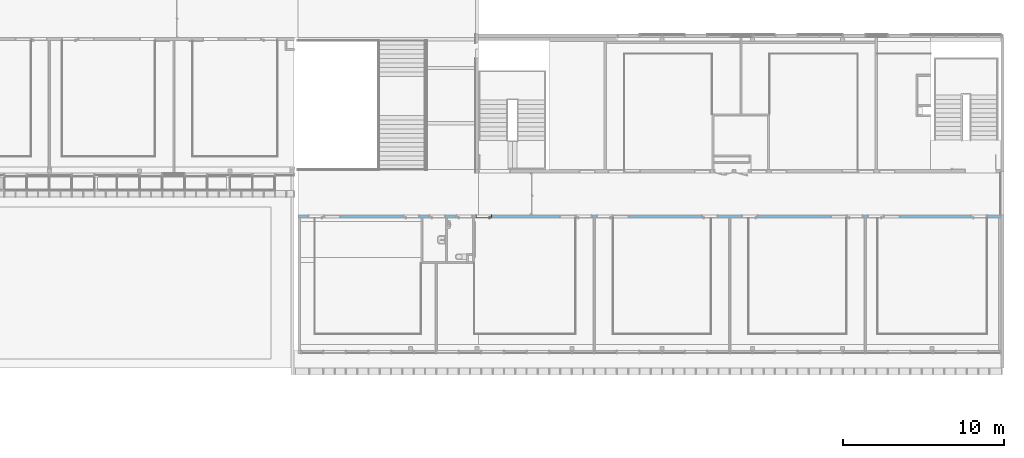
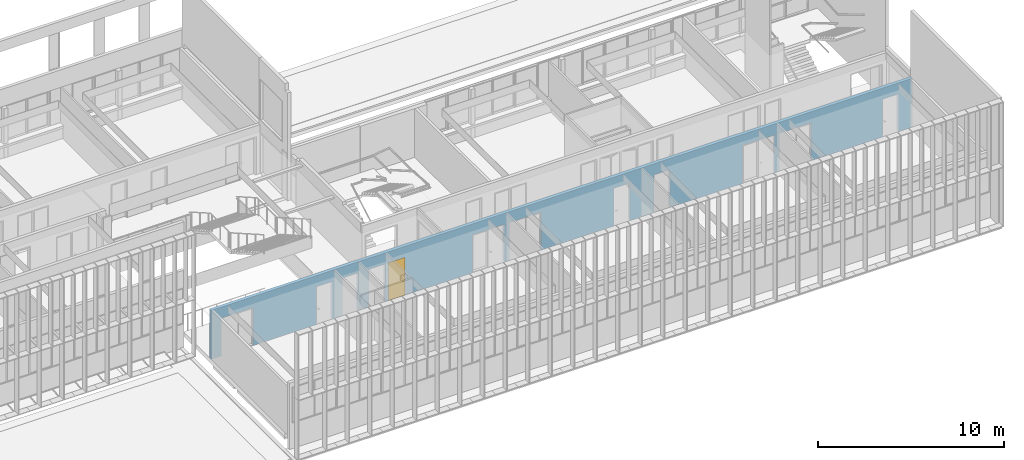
# One storey, part 73 of 106: 1 door, 18 openings, plus 1 element that does not belong to this part.
"""IFC2X3 building model written with IfcOpenShell, lengths in centimetres."""

import ifcopenshell
import ifcopenshell.guid

model = None  # the IFC model being written
_history = None  # IfcOwnerHistory: only IFC2X3 demands one
_inside = {}  # id of a spatial element -> (the spatial element, [elements in it])
_under = {}  # id of a project, library or spatial element -> (it, [spatial elements below it])
_declared = {}  # id of a project -> (the project, [libraries it declares])
_typed = {}  # id of a type object -> (the type object, [elements of that type])
_made_of = {}  # id of a material, layer set ... -> (it, [elements and type objects made of it])


def new_model(schema):
    """Start an empty IFC model of exactly this schema.

    Asked for "IFC4X3", IfcOpenShell would pick the latest addendum, in which some entities
    have other attributes; the version numbers below select the first issue.
    IFC2X3 requires an IfcOwnerHistory on every rooted entity: one is made here for all.
    """
    global model, _history
    if schema == "IFC4X3":
        model = ifcopenshell.file(schema_version=(4, 3, 0, 0))
    else:
        model = ifcopenshell.file(schema=schema)
    _inside.clear()
    _under.clear()
    _declared.clear()
    _typed.clear()
    _made_of.clear()
    _history = None
    if model.schema == "IFC2X3":
        org = make("IfcOrganization", Name="unknown")
        user = make(
            "IfcPersonAndOrganization",
            ThePerson=make("IfcPerson", FamilyName="unknown"),
            TheOrganization=org,
        )
        app = make(
            "IfcApplication",
            ApplicationDeveloper=org,
            Version="unknown",
            ApplicationFullName="unknown",
            ApplicationIdentifier="unknown",
        )
        _history = make(
            "IfcOwnerHistory",
            OwningUser=user,
            OwningApplication=app,
            ChangeAction="ADDED",
            CreationDate=0,
        )
    return model


def make(cls, **values):
    """One entity of the class cls with the attributes given. An attribute that is None is left unset."""
    return model.create_entity(
        cls, **{name: value for name, value in values.items() if value is not None}
    )


def entity(cls, *values):
    """Any entity or typed value of the class cls, its attributes in the order of the schema. None: left unset."""
    e = model.create_entity(cls)
    for i, value in enumerate(values):
        if value is not None:
            e[i] = value
    return e


def rooted(cls, **values):
    """An entity with a GlobalId (a new one), such as an element, a storey or a relation."""
    return make(cls, GlobalId=ifcopenshell.guid.new(), OwnerHistory=_history, **values)


def si_unit(unit_type, name, prefix=None):
    """IfcSIUnit, for example si_unit("LENGTHUNIT", "METRE", prefix="MILLI")."""
    return make("IfcSIUnit", UnitType=unit_type, Prefix=prefix, Name=name)


def converted_unit(unit_type, name, factor, base, dimensions=None, offset=None):
    """IfcConversionBasedUnit, such as the inch: factor (a typed value) times the base unit."""
    return make(
        "IfcConversionBasedUnit"
        if offset is None
        else "IfcConversionBasedUnitWithOffset",
        ConversionOffset=offset,
        Dimensions=None
        if dimensions is None
        else entity("IfcDimensionalExponents", *dimensions),
        UnitType=unit_type,
        Name=name,
        ConversionFactor=make(
            "IfcMeasureWithUnit", ValueComponent=factor, UnitComponent=base
        ),
    )


def derived_unit(unit_type, elements):
    """IfcDerivedUnit: a product of units, each with its exponent."""
    return make(
        "IfcDerivedUnit",
        Elements=[
            make("IfcDerivedUnitElement", Unit=unit, Exponent=power)
            for unit, power in elements
        ],
        UnitType=unit_type,
    )


def assignment(units):
    """IfcUnitAssignment: the units of a project."""
    return None if units is None else make("IfcUnitAssignment", Units=units)


def point(xyz):
    """IfcCartesianPoint."""
    return None if xyz is None else make("IfcCartesianPoint", Coordinates=xyz)


def direction(xyz):
    """IfcDirection."""
    return None if xyz is None else make("IfcDirection", DirectionRatios=xyz)


def frame(location, z_axis=None, x_axis=None):
    """IfcAxis2Placement3D, a coordinate frame: its origin and axes. An axis left out is left unset."""
    return make(
        "IfcAxis2Placement3D",
        Location=point(location),
        Axis=direction(z_axis),
        RefDirection=direction(x_axis),
    )


def frame_2d(location, x_axis=None):
    """IfcAxis2Placement2D, a coordinate frame in the plane: its origin and x axis."""
    return make(
        "IfcAxis2Placement2D", Location=point(location), RefDirection=direction(x_axis)
    )


def origin():
    """The frame at (0, 0, 0) with its axes left unset."""
    return frame((0.0, 0.0, 0.0))


def place(relative_to, where):
    """IfcLocalPlacement: puts the frame where relative to a parent placement (None: the world)."""
    return make(
        "IfcLocalPlacement", PlacementRelTo=relative_to, RelativePlacement=where
    )


def context(
    kind, dimensions, precision=None, world=None, true_north=None, identifier=None
):
    """IfcGeometricRepresentationContext, for example the 3D "Model" context."""
    return make(
        "IfcGeometricRepresentationContext",
        ContextIdentifier=identifier,
        ContextType=kind,
        CoordinateSpaceDimension=dimensions,
        Precision=precision,
        WorldCoordinateSystem=world,
        TrueNorth=true_north,
    )


def subcontext(parent, identifier, kind, view, scale=None):
    """IfcGeometricRepresentationSubContext, for example "Body" below "Model"."""
    return make(
        "IfcGeometricRepresentationSubContext",
        ContextIdentifier=identifier,
        ContextType=kind,
        ParentContext=parent,
        TargetScale=scale,
        TargetView=view,
    )


def project(units=None, contexts=None):
    """IfcProject with its units and contexts."""
    return rooted(
        "IfcProject",
        Name="project",
        RepresentationContexts=contexts,
        UnitsInContext=assignment(units),
    )


def spatial(cls, under=None, at=None, **own):
    """A site, building, storey or space (cls), placed at a placement, below another one or the project."""
    s = rooted(cls, ObjectPlacement=at, **own)
    if under is not None:
        _under.setdefault(under.id(), (under, []))[1].append(s)
    return s


def polyline(points):
    """IfcPolyline through the points."""
    return make("IfcPolyline", Points=[point(p) for p in points])


def profile(cls, at=None, kind="AREA", **sizes):
    """A parametric profile (cls). Its sizes go by their IFC names, for example OverallWidth=200.0."""
    return make(cls, ProfileType=kind, Position=at, **sizes)


def rectangle(**sizes):
    """IfcRectangleProfileDef."""
    return profile("IfcRectangleProfileDef", **sizes)


def extrude(swept, where, along, depth):
    """IfcExtrudedAreaSolid: the profile swept, set in the frame where, extruded along a direction by depth."""
    return make(
        "IfcExtrudedAreaSolid",
        SweptArea=swept,
        Position=where,
        ExtrudedDirection=direction(along),
        Depth=depth,
    )


def clip(a, b, op="DIFFERENCE"):
    """IfcBooleanClippingResult: the solid a cut by the half space b."""
    return make(
        "IfcBooleanClippingResult", Operator=op, FirstOperand=a, SecondOperand=b
    )


def bounded_halfspace(plane, agree, where, boundary):
    """IfcPolygonalBoundedHalfSpace: a half space limited to a polygon's prism."""
    return make(
        "IfcPolygonalBoundedHalfSpace",
        BaseSurface=make("IfcPlane", Position=plane),
        AgreementFlag=agree,
        Position=where,
        PolygonalBoundary=boundary,
    )


def faces_of(points, faces, orient=None, outer=None):
    """IfcFace entities. A face is a list of loops; a loop is a list of indices into points, from 0.

    orient and outer hold one flag for each loop. By default every Orientation is true, the
    first loop of a face is its IfcFaceOuterBound and the others are IfcFaceBound.
    """
    made = []
    for i, loops in enumerate(faces):
        bounds = []
        for j, loop in enumerate(loops):
            is_outer = j == 0 if outer is None else outer[i][j]
            bounds.append(
                make(
                    "IfcFaceOuterBound" if is_outer else "IfcFaceBound",
                    Bound=make("IfcPolyLoop", Polygon=[points[k] for k in loop]),
                    Orientation=True if orient is None else orient[i][j],
                )
            )
        made.append(make("IfcFace", Bounds=bounds))
    return made


def faceted_brep(points, faces, orient=None, outer=None, voids=None):
    """IfcFacetedBrep: a solid bounded by flat faces; with voids (closed shells), ...WithVoids."""
    shared = [point(p) for p in points]
    hull = make("IfcClosedShell", CfsFaces=faces_of(shared, faces, orient, outer))
    if voids is None:
        return make("IfcFacetedBrep", Outer=hull)
    return make(
        "IfcFacetedBrepWithVoids",
        Outer=hull,
        Voids=[
            make(cls, CfsFaces=faces_of(shared, fs, o, b)) for cls, fs, o, b in voids
        ],
    )


def shape(context_of_items, identifier, shape_type, items):
    """IfcShapeRepresentation: the items that make up one representation, for example the "Body"."""
    return make(
        "IfcShapeRepresentation",
        ContextOfItems=context_of_items,
        RepresentationIdentifier=identifier,
        RepresentationType=shape_type,
        Items=items,
    )


def source(mapping_origin, context_of_items, identifier, shape_type, items):
    """IfcRepresentationMap: a shape defined once, which mapped items show again and again."""
    return make(
        "IfcRepresentationMap",
        MappingOrigin=mapping_origin,
        MappedRepresentation=shape(context_of_items, identifier, shape_type, items),
    )


def transform(
    local_origin,
    x_axis=None,
    y_axis=None,
    z_axis=None,
    scale=None,
    scale2=None,
    scale3=None,
    uniform=True,
):
    """IfcCartesianTransformationOperator3D, or its non-uniform kind. x_axis, y_axis, z_axis: its Axis1, 2, 3."""
    if uniform:
        return make(
            "IfcCartesianTransformationOperator3D",
            Axis1=direction(x_axis),
            Axis2=direction(y_axis),
            LocalOrigin=point(local_origin),
            Scale=scale,
            Axis3=direction(z_axis),
        )
    return make(
        "IfcCartesianTransformationOperator3DnonUniform",
        Axis1=direction(x_axis),
        Axis2=direction(y_axis),
        LocalOrigin=point(local_origin),
        Scale=scale,
        Axis3=direction(z_axis),
        Scale2=scale2,
        Scale3=scale3,
    )


def mapped(mapping_source, mapping_target):
    """IfcMappedItem: shows the shape of a source again, moved by a transform."""
    return make(
        "IfcMappedItem", MappingSource=mapping_source, MappingTarget=mapping_target
    )


def material(Name=None, Category=None):
    """IfcMaterial."""
    return make("IfcMaterial", Name=Name, Category=Category)


def material_list(materials):
    """IfcMaterialList."""
    return make("IfcMaterialList", Materials=materials)


def layer(
    of_material, thickness, ventilated=None, Name=None, Category=None, Priority=None
):
    """IfcMaterialLayer: one layer of a wall or slab, of a material (None: an air gap)."""
    return make(
        "IfcMaterialLayer",
        Material=of_material,
        LayerThickness=thickness,
        IsVentilated=ventilated,
        Name=Name,
        Category=Category,
        Priority=Priority,
    )


def layer_set(layers, Name=None):
    """IfcMaterialLayerSet."""
    return make("IfcMaterialLayerSet", MaterialLayers=layers, LayerSetName=Name)


def layer_usage(for_layer_set, set_direction, sense, offset, extent=None):
    """IfcMaterialLayerSetUsage: how a layer set lies in its element."""
    return make(
        "IfcMaterialLayerSetUsage",
        ForLayerSet=for_layer_set,
        LayerSetDirection=set_direction,
        DirectionSense=sense,
        OffsetFromReferenceLine=offset,
        ReferenceExtent=extent,
    )


def made_of(thing, what):
    """Note that an element or type object is made of a material, layer set ...; save() writes the relation."""
    if what is not None:
        _made_of.setdefault(what.id(), (what, []))[1].append(thing)
    return thing


def type_object(cls, material=None, **own):
    """A type object (cls), such as IfcWallType, which elements share."""
    return made_of(rooted(cls, **own), material)


def type_shapes(of_type, sources):
    """Give a type object the sources (RepresentationMaps) that its elements show as mapped items."""
    of_type.RepresentationMaps = sources


def element(
    cls,
    number,
    at=None,
    inside=None,
    cuts=None,
    type_object=None,
    material=None,
    context=None,
    identifier="Body",
    shape_type=None,
    held_by="IfcProductDefinitionShape",
    body=None,
    shapes=None,
    **own,
):
    """One element of the class cls, such as IfcWall. Its Tag is "e" and its number.

    at: its placement. inside: the storey or other place that contains it. cuts: it is an
    opening in that element (IfcRelVoidsElement). A single representation is given by context,
    identifier, shape_type and body (its items); several are given by shapes. held_by: the class
    of the entity that holds the representations. save() writes the other relations.
    """
    e = rooted(cls, Tag="e%d" % number, ObjectPlacement=at, **own)
    if body is not None:
        shapes = [shape(context, identifier, shape_type, body)]
    if shapes is not None:
        e.Representation = make(held_by, Representations=shapes)
    if inside is not None:
        _inside.setdefault(inside.id(), (inside, []))[1].append(e)
    if cuts is not None:
        rooted(
            "IfcRelVoidsElement", RelatingBuildingElement=cuts, RelatedOpeningElement=e
        )
    if type_object is not None:
        _typed.setdefault(type_object.id(), (type_object, []))[1].append(e)
    return made_of(e, material)


def fill(opening, filler):
    """IfcRelFillsElement: the door or window that sits in an opening."""
    return rooted(
        "IfcRelFillsElement",
        RelatingOpeningElement=opening,
        RelatedBuildingElement=filler,
    )


def aggregate(whole, parts):
    """IfcRelAggregates: a whole, such as a stair, and the parts it consists of."""
    return rooted("IfcRelAggregates", RelatingObject=whole, RelatedObjects=parts)


def save(model, path):
    """Write the relations noted so far, then the file.

    IfcRelAggregates (storeys below a building ...), IfcRelContainedInSpatialStructure (elements
    in a storey), IfcRelDefinesByType, IfcRelAssociatesMaterial and IfcRelDeclares: one each for
    every whole, place, type object, material and project.
    """
    for whole, parts in _under.values():
        aggregate(whole, parts)
    for where, things in _inside.values():
        rooted(
            "IfcRelContainedInSpatialStructure",
            RelatedElements=things,
            RelatingStructure=where,
        )
    for kind, things in _typed.values():
        rooted("IfcRelDefinesByType", RelatedObjects=things, RelatingType=kind)
    for what, things in _made_of.values():
        rooted("IfcRelAssociatesMaterial", RelatedObjects=things, RelatingMaterial=what)
    for by, libraries in _declared.values():
        rooted("IfcRelDeclares", RelatingContext=by, RelatedDefinitions=libraries)
    model.write(path)


model = new_model("IFC2X3")

# Units and contexts
model_context = context("Model", 3, precision=0.001, world=origin(), true_north=direction((6.12303176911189e-17, 1.0)))
body_context = subcontext(model_context, "Body", "Model", "MODEL_VIEW")
ifc_project = project(units=[si_unit("LENGTHUNIT", "METRE", prefix="CENTI"), si_unit("AREAUNIT", "SQUARE_METRE"), si_unit("VOLUMEUNIT", "CUBIC_METRE"), converted_unit("PLANEANGLEUNIT", "DEGREE", entity("IfcRatioMeasure", 0.0174532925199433), si_unit("PLANEANGLEUNIT", "RADIAN"), dimensions=[0, 0, 0, 0, 0, 0, 0]), si_unit("MASSUNIT", "GRAM", prefix="KILO"), derived_unit("MASSDENSITYUNIT", [(si_unit("MASSUNIT", "GRAM", prefix="KILO"), 1), (si_unit("LENGTHUNIT", "METRE"), -3)]), si_unit("TIMEUNIT", "SECOND"), si_unit("FREQUENCYUNIT", "HERTZ"), si_unit("THERMODYNAMICTEMPERATUREUNIT", "DEGREE_CELSIUS"), derived_unit("THERMALTRANSMITTANCEUNIT", [(si_unit("MASSUNIT", "GRAM", prefix="KILO"), 1), (si_unit("THERMODYNAMICTEMPERATUREUNIT", "KELVIN"), -1), (si_unit("TIMEUNIT", "SECOND"), -3)]), derived_unit("VOLUMETRICFLOWRATEUNIT", [(si_unit("LENGTHUNIT", "METRE"), 3), (si_unit("TIMEUNIT", "SECOND"), -1)]), si_unit("ELECTRICCURRENTUNIT", "AMPERE"), si_unit("ELECTRICVOLTAGEUNIT", "VOLT"), si_unit("POWERUNIT", "WATT"), si_unit("FORCEUNIT", "NEWTON", prefix="KILO"), si_unit("ILLUMINANCEUNIT", "LUX"), si_unit("LUMINOUSFLUXUNIT", "LUMEN"), si_unit("LUMINOUSINTENSITYUNIT", "CANDELA"), derived_unit("USERDEFINED", [(si_unit("MASSUNIT", "GRAM", prefix="KILO"), -1), (si_unit("LENGTHUNIT", "METRE"), -2), (si_unit("TIMEUNIT", "SECOND"), 3), (si_unit("LUMINOUSFLUXUNIT", "LUMEN"), 1)]), derived_unit("LINEARVELOCITYUNIT", [(si_unit("LENGTHUNIT", "METRE"), 1), (si_unit("TIMEUNIT", "SECOND"), -1)]), si_unit("PRESSUREUNIT", "PASCAL"), derived_unit("USERDEFINED", [(si_unit("LENGTHUNIT", "METRE"), -2), (si_unit("MASSUNIT", "GRAM", prefix="KILO"), 1), (si_unit("TIMEUNIT", "SECOND"), -2)])], contexts=[model_context])

# Site, building, storey
site_placement = place(None, frame((-2781.94577612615, 7442.24238424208, 0.0)))
site = spatial("IfcSite", under=ifc_project, at=site_placement, Name="Default", CompositionType="ELEMENT")
building_placement = place(site_placement, origin())
building = spatial("IfcBuilding", under=site, at=building_placement, CompositionType="ELEMENT")
storey_placement = place(building_placement, frame((0.0, 0.0, 422.0)))
storey = spatial("IfcBuildingStorey", under=building, at=storey_placement, Name="Toiture - Cuisine", CompositionType="ELEMENT", Elevation=421.999999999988)

# Wall, openings, door
ifc_material_1 = material(Name="01 - Maçonnerie")
ifc_layer = layer(ifc_material_1, 20.0)
ifc_layer_set = layer_set([ifc_layer], Name="Mur de base:04 - Structure - béton - 20cm")
ifc_layer_usage = layer_usage(ifc_layer_set, "AXIS2", "NEGATIVE", 10.0)
wall_type = type_object("IfcWallType", Name="Mur de base:04 - Structure - béton - 20cm", PredefinedType="STANDARD", material=ifc_layer_set)
wall_placement = place(building_placement, frame((-4767.99987760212, -2200.15656731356, 422.0)))
wall = element("IfcWallStandardCase", 1, at=wall_placement, inside=storey, type_object=wall_type, material=ifc_layer_usage, Name="Mur de base:04 - Structure - béton - 20cm", ObjectType="Mur de base:04 - Structure - béton - 20cm", context=body_context, shape_type="Clipping", body=[
    clip(extrude(rectangle(XDim=4357.99999476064, YDim=19.9999999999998, at=frame_2d((2178.99999738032, -6.30606677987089e-14), x_axis=(-1.0, 0.0))), origin(), (0.0, 0.0, 1.0), 321.0), bounded_halfspace(frame((0.0, 10.0, 321.0), z_axis=(0.0, 0.0, -1.0), x_axis=(0.0, 1.0, 0.0)), True, frame((0.0, 10.0, 321.0)), polyline([(0.0, 0.0), (0.0, -20.0), (15.2999999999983, -20.0), (103.799999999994, -20.0), (105.799999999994, -20.0), (763.799999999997, -20.0), (773.799999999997, -20.0), (915.699994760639, -20.0), (925.699994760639, -20.0), (1082.69999476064, -20.0), (1092.69999476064, -20.0), (1720.69999476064, -20.0), (1722.69999476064, -20.0), (1832.69999476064, -20.0), (1842.69999476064, -20.0), (1952.69999476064, -20.0), (1954.69999476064, -20.0), (2560.69999476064, -20.0), (2562.69999476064, -20.0), (2672.69999476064, -20.0), (2682.69999476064, -20.0), (2792.69999476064, -20.0), (2794.69999476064, -20.0), (3400.69999476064, -20.0), (3402.69999476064, -20.0), (3512.69999476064, -20.0), (3522.69999476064, -20.0), (3592.69999476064, -20.0), (3594.69999476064, -20.0), (4270.69999476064, -20.0), (4272.69999476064, -20.0), (4342.69999476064, -20.0), (4358.0, -20.0), (4358.0, 0.0), (4356.0, 0.0), (1451.49999791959, 0.0), (1441.49999791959, 0.0), (1120.0, 0.0), (0.0, 0.0)]))),
])
opening_1_placement = place(wall_placement, origin())
element("IfcOpeningElement", 2, at=opening_1_placement, cuts=wall, Name="Mur de base:04 - Structure - béton - 20cm", ObjectType="Opening", context=body_context, shape_type="SweptSolid", body=[
    extrude(rectangle(XDim=270.0, YDim=20.0, at=frame_2d((0.0, 4.2632564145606e-14), x_axis=(0.0, 1.0))), frame((4368.0, 10.0, 135.0), z_axis=(0.0, 1.0, 0.0), x_axis=(1.0, 0.0, 0.0)), (0.0, 0.0, 1.0), 260.077533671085),
])
opening_2_placement = place(wall_placement, frame((4272.69999476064, 10.0, 0.0)))
element("IfcOpeningElement", 3, at=opening_2_placement, cuts=wall, Name="Int. Simple:PV (0.93m x 2.50m):1", ObjectType="Opening", context=body_context, shape_type="SweptSolid", body=[
    extrude(rectangle(XDim=248.500000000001, YDim=99.9999999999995, at=frame_2d((124.250000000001, 50.0), x_axis=(1.0, 0.0))), frame((0.0, 0.0, 0.0), z_axis=(0.0, -1.0, 0.0), x_axis=(0.0, 0.0, 1.0)), (0.0, 0.0, 1.0), 20.0),
])
opening_3_placement = place(wall_placement, frame((3632.69999476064, 10.0, 0.0)))
element("IfcOpeningElement", 4, at=opening_3_placement, cuts=wall, Name="Int. Simple:PV (0.93m x 2.50m):1", ObjectType="Opening", context=body_context, shape_type="SweptSolid", body=[
    extrude(rectangle(XDim=248.500000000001, YDim=99.9999999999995, at=frame_2d((124.250000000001, 49.9999999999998), x_axis=(1.0, 0.0))), frame((0.0, 0.0, 0.0), z_axis=(0.0, -1.0, 0.0), x_axis=(0.0, 0.0, 1.0)), (0.0, 0.0, 1.0), 20.0),
])
opening_4_placement = place(wall_placement, frame((3502.69999476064, 10.0, 0.0)))
element("IfcOpeningElement", 5, at=opening_4_placement, cuts=wall, Name="Int. Simple:PV (0.93m x 2.50m):1", ObjectType="Opening", context=body_context, shape_type="SweptSolid", body=[
    extrude(rectangle(XDim=248.500000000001, YDim=99.9999999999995, at=frame_2d((124.250000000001, 49.9999999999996), x_axis=(1.0, 0.0))), frame((0.0, 0.0, 0.0), z_axis=(0.0, -1.0, 0.0), x_axis=(0.0, 0.0, 1.0)), (0.0, 0.0, 1.0), 20.0),
])
opening_5_placement = place(wall_placement, frame((2852.69999476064, 10.0, 0.0)))
element("IfcOpeningElement", 6, at=opening_5_placement, cuts=wall, Name="Int. Simple:PV (0.93m x 2.50m):1", ObjectType="Opening", context=body_context, shape_type="SweptSolid", body=[
    extrude(rectangle(XDim=248.500000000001, YDim=99.9999999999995, at=frame_2d((124.250000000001, 49.9999999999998), x_axis=(1.0, 0.0))), frame((0.0, 0.0, 0.0), z_axis=(0.0, -1.0, 0.0), x_axis=(0.0, 0.0, 1.0)), (0.0, 0.0, 1.0), 20.0),
])
opening_6_placement = place(wall_placement, frame((2602.69999476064, 10.0, 0.0)))
element("IfcOpeningElement", 7, at=opening_6_placement, cuts=wall, Name="Int. Simple:PV (0.93m x 2.50m):1", ObjectType="Opening", context=body_context, shape_type="SweptSolid", body=[
    extrude(rectangle(XDim=248.500000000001, YDim=99.9999999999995, at=frame_2d((124.250000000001, 49.9999999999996), x_axis=(1.0, 0.0))), frame((0.0, 0.0, 0.0), z_axis=(0.0, -1.0, 0.0), x_axis=(0.0, 0.0, 1.0)), (0.0, 0.0, 1.0), 20.0),
])
opening_7_placement = place(wall_placement, frame((1952.69999476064, 10.0, 0.0)))
element("IfcOpeningElement", 8, at=opening_7_placement, cuts=wall, Name="Int. Simple:PV (0.93m x 2.50m):1", ObjectType="Opening", context=body_context, shape_type="SweptSolid", body=[
    extrude(rectangle(XDim=248.500000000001, YDim=99.9999999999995, at=frame_2d((124.250000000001, 49.9999999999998), x_axis=(1.0, 0.0))), frame((0.0, 0.0, 0.0), z_axis=(0.0, -1.0, 0.0), x_axis=(0.0, 0.0, 1.0)), (0.0, 0.0, 1.0), 20.0),
])
opening_8_placement = place(wall_placement, frame((1822.69999476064, 10.0, 0.0)))
element("IfcOpeningElement", 9, at=opening_8_placement, cuts=wall, Name="Int. Simple:PV (0.93m x 2.50m):1", ObjectType="Opening", context=body_context, shape_type="SweptSolid", body=[
    extrude(rectangle(XDim=248.500000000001, YDim=99.9999999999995, at=frame_2d((124.250000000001, 49.9999999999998), x_axis=(1.0, 0.0))), frame((0.0, 0.0, 0.0), z_axis=(0.0, -1.0, 0.0), x_axis=(0.0, 0.0, 1.0)), (0.0, 0.0, 1.0), 20.0),
])
opening_9_placement = place(wall_placement, frame((1202.69999476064, 10.0, 0.0)))
opening_9 = element("IfcOpeningElement", 10, at=opening_9_placement, cuts=wall, Name="Int. Simple:PV (0.93m x 2.50m):1", ObjectType="Opening", context=body_context, shape_type="SweptSolid", body=[
    extrude(rectangle(XDim=248.500000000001, YDim=99.9999999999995, at=frame_2d((124.250000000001, 49.9999999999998), x_axis=(1.0, 0.0))), frame((0.0, 0.0, 0.0), z_axis=(0.0, -1.0, 0.0), x_axis=(0.0, 0.0, 1.0)), (0.0, 0.0, 1.0), 20.0),
])
opening_10_placement = place(wall_placement, frame((1081.19999476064, 10.0, 0.0)))
element("IfcOpeningElement", 11, at=opening_10_placement, cuts=wall, Name="Int. Simple:PP simple (0.93m x 2.50m):1", ObjectType="Opening", context=body_context, shape_type="SweptSolid", body=[
    extrude(rectangle(XDim=248.500000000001, YDim=99.9999999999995, at=frame_2d((124.250000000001, 49.9999999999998), x_axis=(1.0, 0.0))), frame((0.0, 0.0, 0.0), z_axis=(0.0, -1.0, 0.0), x_axis=(0.0, 0.0, 1.0)), (0.0, 0.0, 1.0), 20.0),
])
opening_11_placement = place(wall_placement, frame((753.799999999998, 10.0, 0.0)))
element("IfcOpeningElement", 12, at=opening_11_placement, cuts=wall, Name="Int. Simple:PV (0.93m x 2.50m):1", ObjectType="Opening", context=body_context, shape_type="SweptSolid", body=[
    extrude(rectangle(XDim=248.500000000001, YDim=99.9999999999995, at=frame_2d((124.250000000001, 50.0), x_axis=(1.0, 0.0))), frame((0.0, 0.0, 0.0), z_axis=(0.0, -1.0, 0.0), x_axis=(0.0, 0.0, 1.0)), (0.0, 0.0, 1.0), 20.0),
])
opening_12_placement = place(wall_placement, frame((163.799999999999, 10.0, 0.0)))
element("IfcOpeningElement", 13, at=opening_12_placement, cuts=wall, Name="Int. Simple:PV (0.93m x 2.50m):1", ObjectType="Opening", context=body_context, shape_type="SweptSolid", body=[
    extrude(rectangle(XDim=248.500000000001, YDim=99.9999999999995, at=frame_2d((124.250000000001, 49.9999999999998), x_axis=(1.0, 0.0))), frame((0.0, 0.0, 0.0), z_axis=(0.0, -1.0, 0.0), x_axis=(0.0, 0.0, 1.0)), (0.0, 0.0, 1.0), 20.0),
])
opening_13_placement = place(wall_placement, frame((263.799999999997, 10.0, 0.0)))
element("IfcOpeningElement", 14, at=opening_13_placement, cuts=wall, Name="châssis intérieur vitré:châssis intérieur vitré (h=270) R+1:1", ObjectType="Opening", context=body_context, shape_type="SweptSolid", body=[
    extrude(rectangle(XDim=250.0, YDim=99.9999999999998, at=frame_2d((125.0, 49.9999999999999), x_axis=(1.0, 0.0))), frame((0.0, 0.0, 0.0), z_axis=(0.0, -1.0, 0.0), x_axis=(0.0, 0.0, 1.0)), (0.0, 0.0, 1.0), 20.0),
])
opening_14_placement = place(wall_placement, frame((1722.69999476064, 10.0, 0.0)))
element("IfcOpeningElement", 15, at=opening_14_placement, cuts=wall, Name="châssis intérieur vitré:châssis intérieur vitré (h=270) R+1:1", ObjectType="Opening", context=body_context, shape_type="SweptSolid", body=[
    extrude(rectangle(XDim=250.0, YDim=99.9999999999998, at=frame_2d((125.0, 49.9999999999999), x_axis=(1.0, 0.0))), frame((0.0, 0.0, 0.0), z_axis=(0.0, -1.0, 0.0), x_axis=(0.0, 0.0, 1.0)), (0.0, 0.0, 1.0), 20.0),
])
opening_15_placement = place(wall_placement, frame((2052.69999476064, 10.0, 0.0)))
element("IfcOpeningElement", 16, at=opening_15_placement, cuts=wall, Name="châssis intérieur vitré:châssis intérieur vitré (h=270) R+1:1", ObjectType="Opening", context=body_context, shape_type="SweptSolid", body=[
    extrude(rectangle(XDim=250.0, YDim=99.9999999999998, at=frame_2d((125.0, 49.9999999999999), x_axis=(1.0, 0.0))), frame((0.0, 0.0, 0.0), z_axis=(0.0, -1.0, 0.0), x_axis=(0.0, 0.0, 1.0)), (0.0, 0.0, 1.0), 20.0),
])
opening_16_placement = place(wall_placement, frame((3402.69999476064, 10.0, 0.0)))
element("IfcOpeningElement", 17, at=opening_16_placement, cuts=wall, Name="châssis intérieur vitré:châssis intérieur vitré (h=270) R+1:1", ObjectType="Opening", context=body_context, shape_type="SweptSolid", body=[
    extrude(rectangle(XDim=250.0, YDim=99.9999999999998, at=frame_2d((125.0, 49.9999999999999), x_axis=(1.0, 0.0))), frame((0.0, 0.0, 0.0), z_axis=(0.0, -1.0, 0.0), x_axis=(0.0, 0.0, 1.0)), (0.0, 0.0, 1.0), 20.0),
])
opening_17_placement = place(wall_placement, frame((3732.69999476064, 10.0, 0.0)))
element("IfcOpeningElement", 18, at=opening_17_placement, cuts=wall, Name="châssis intérieur vitré:châssis intérieur vitré (h=270) R+1:1", ObjectType="Opening", context=body_context, shape_type="SweptSolid", body=[
    extrude(rectangle(XDim=250.0, YDim=99.9999999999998, at=frame_2d((125.0, 49.9999999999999), x_axis=(1.0, 0.0))), frame((0.0, 0.0, 0.0), z_axis=(0.0, -1.0, 0.0), x_axis=(0.0, 0.0, 1.0)), (0.0, 0.0, 1.0), 20.0),
])
opening_18_placement = place(wall_placement, frame((914.199994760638, 10.0, 0.0)))
element("IfcOpeningElement", 19, at=opening_18_placement, cuts=wall, Name="Int. Simple:PP simple (0.93m x 2.50m):1", ObjectType="Opening", context=body_context, shape_type="SweptSolid", body=[
    extrude(rectangle(XDim=248.500000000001, YDim=99.9999999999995, at=frame_2d((124.250000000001, 50.0), x_axis=(1.0, 0.0))), frame((0.0, 0.0, 0.0), z_axis=(0.0, -1.0, 0.0), x_axis=(0.0, 0.0, 1.0)), (0.0, 0.0, 1.0), 20.0),
])
ifc_material_2 = material(Name="Finition Peinture - Blanc satiné")
ifc_material_3 = material(Name="Bois - Panneau de porte")
ifc_material_4 = material(Name="Bois - Cadre de porte")
ifc_material_list_1 = material_list([ifc_material_2, ifc_material_3, ifc_material_4])
ifc_material_list_2 = material_list([ifc_material_2, ifc_material_3, ifc_material_4])
door_style = type_object("IfcDoorStyle", Name="PV (0.93m x 2.50m)", ConstructionType="NOTDEFINED", OperationType="SINGLE_SWING_RIGHT", ParameterTakesPrecedence=False, Sizeable=False, material=ifc_material_list_2)
shared_shape = source(origin(), body_context, "Body", "Brep", [
    faceted_brep([(99.5000000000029, -0.500000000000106, 87.0), (99.5000000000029, -0.500000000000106, 108.0), (98.535276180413, -0.500000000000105, 108.399601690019), (97.5000000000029, -0.500000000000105, 108.535898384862), (96.4647238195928, -0.500000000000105, 108.399601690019), (95.500000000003, -0.500000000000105, 108.0), (95.5000000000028, -0.500000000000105, 87.0), (96.4647238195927, -0.500000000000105, 86.6003983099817), (97.5000000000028, -0.500000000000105, 86.464101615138), (98.5352761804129, -0.500000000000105, 86.6003983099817), (99.5000000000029, 0.0, 108.0), (99.5000000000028, 0.0, 87.0), (98.5352761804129, 0.0, 86.6003983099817), (97.5000000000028, 0.0, 86.464101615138), (96.4647238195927, 0.0, 86.6003983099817), (95.5000000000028, 0.0, 87.0), (95.5000000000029, 0.0, 108.0), (96.4647238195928, 0.0, 108.399601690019), (97.5000000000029, 0.0, 108.535898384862), (98.535276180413, 0.0, 108.399601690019)], [[[0, 1, 2, 3, 4, 5, 6, 7, 8, 9]], [[10, 11, 12, 13, 14, 15, 16, 17, 18, 19]], [[9, 12, 11, 0]], [[8, 13, 12, 9]], [[7, 14, 13, 8]], [[7, 6, 15, 14]], [[15, 6, 5, 16]], [[4, 17, 16, 5]], [[3, 18, 17, 4]], [[2, 19, 18, 3]], [[2, 1, 10, 19]], [[11, 10, 1, 0]]]),
    faceted_brep([(99.5000000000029, 4.0, 87.0), (99.5000000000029, 4.0, 108.0), (98.535276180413, 4.0, 108.399601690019), (97.5000000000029, 4.0, 108.535898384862), (96.4647238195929, 4.0, 108.399601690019), (95.500000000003, 4.0, 108.0), (95.5000000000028, 4.0, 87.0), (96.4647238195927, 4.0, 86.6003983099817), (97.5000000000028, 4.0, 86.464101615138), (98.5352761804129, 4.0, 86.6003983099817), (97.5000000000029, 4.49999999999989, 108.535898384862), (98.535276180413, 4.49999999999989, 108.399601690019), (99.5000000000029, 4.49999999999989, 108.0), (99.5000000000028, 4.49999999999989, 87.0), (98.5352761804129, 4.49999999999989, 86.6003983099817), (97.5000000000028, 4.49999999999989, 86.464101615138), (96.4647238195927, 4.49999999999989, 86.6003983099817), (95.5000000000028, 4.49999999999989, 87.0), (95.500000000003, 4.49999999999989, 108.0), (96.4647238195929, 4.49999999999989, 108.399601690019)], [[[0, 1, 2, 3, 4, 5, 6, 7, 8, 9]], [[10, 11, 12, 13, 14, 15, 16, 17, 18, 19]], [[4, 19, 18, 5]], [[3, 10, 19, 4]], [[2, 11, 10, 3]], [[2, 1, 12, 11]], [[13, 12, 1, 0]], [[9, 14, 13, 0]], [[8, 15, 14, 9]], [[7, 16, 15, 8]], [[7, 6, 17, 16]], [[17, 6, 5, 18]]]),
    faceted_brep([(97.2974701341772, -0.500000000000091, 100.778044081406), (97.7025298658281, -0.500000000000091, 100.778044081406), (98.1000000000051, -0.500000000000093, 100.699999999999), (98.100000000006, -0.500000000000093, 99.2999999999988), (97.7025298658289, -0.500000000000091, 99.221955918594), (97.297470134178, -0.500000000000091, 99.2219559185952), (96.9000000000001, -0.500000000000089, 99.3000000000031), (96.9000000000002, -0.500000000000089, 100.7), (97.7025298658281, -3.10045754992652, 100.778044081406), (98.1000000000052, -3.26509507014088, 100.7), (97.2974701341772, -2.93267631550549, 100.778044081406), (95.9298602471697, -4.30028620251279, 100.778044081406), (96.0976414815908, -4.70534593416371, 100.778044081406), (96.9000000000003, -2.76803879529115, 100.7), (96.9000000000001, -2.76803879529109, 99.3000000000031), (97.297470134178, -2.93267631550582, 99.2219559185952), (97.7025298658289, -3.10045754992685, 99.221955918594), (96.0976414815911, -4.70534593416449, 99.221955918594), (95.9298602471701, -4.30028620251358, 99.2219559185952), (98.100000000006, -3.26509507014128, 99.2999999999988), (96.2622790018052, -5.1028160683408, 100.7), (95.7652227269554, -3.90281606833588, 100.7), (95.7652227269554, -3.90281606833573, 99.3000000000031), (96.2622790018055, -5.10281606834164, 99.2999999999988), (87.4981359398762, -5.10281606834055, 100.7), (87.4981359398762, -4.70534593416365, 100.778044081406), (87.4981359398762, -4.30028620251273, 100.778044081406), (87.4981359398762, -3.90281606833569, 100.699999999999), (87.4981359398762, -3.90281606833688, 99.3000000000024), (87.4981359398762, -4.30028620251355, 99.2219559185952), (87.4981359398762, -4.70534593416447, 99.221955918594), (87.4981359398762, -5.10281606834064, 99.2999999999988), (91.7139980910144, -4.5028160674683, 100.78786867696), (92.2692302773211, -5.1028160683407, 100.7), (91.6316793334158, -3.9028160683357, 100.7), (91.631679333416, -3.90281606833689, 99.3000000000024), (91.7139981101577, -4.50281607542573, 99.2121313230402), (92.2692310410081, -5.10281606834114, 99.2999999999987)], [[[0, 1, 2, 3, 4, 5, 6, 7]], [[2, 1, 8, 9]], [[1, 0, 10, 11, 12, 8]], [[0, 7, 13, 10]], [[14, 13, 7, 6]], [[5, 15, 14, 6]], [[5, 4, 16, 17, 18, 15]], [[3, 19, 16, 4]], [[9, 19, 3, 2]], [[9, 8, 12, 20]], [[10, 13, 21, 11]], [[22, 21, 13, 14]], [[14, 15, 18, 22]], [[16, 19, 23, 17]], [[20, 23, 19, 9]], [[24, 25, 26, 27, 28, 29, 30, 31]], [[32, 25, 33]], [[33, 25, 24]], [[33, 20, 12]], [[11, 34, 32]], [[34, 11, 21]], [[27, 26, 34]], [[32, 26, 25]], [[32, 34, 26]], [[32, 33, 12]], [[11, 32, 12]], [[21, 22, 35, 28, 27, 34]], [[36, 29, 35]], [[30, 36, 37]], [[18, 35, 22]], [[29, 28, 35]], [[30, 37, 31]], [[37, 17, 23]], [[36, 17, 37]], [[36, 18, 17]], [[36, 35, 18]], [[29, 36, 30]], [[23, 20, 33, 24, 31, 37]]]),
    faceted_brep([(97.2974701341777, 4.49999999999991, 99.2219559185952), (97.7025298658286, 4.49999999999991, 99.221955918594), (98.1000000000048, 4.4999999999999, 99.2999999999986), (98.1000000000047, 4.4999999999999, 100.7), (97.7025298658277, 4.49999999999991, 100.778044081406), (97.2974701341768, 4.49999999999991, 100.778044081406), (96.8999999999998, 4.49999999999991, 100.7), (96.900000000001, 4.49999999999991, 99.3000000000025), (96.8999999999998, 6.7485204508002, 100.7), (96.8999999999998, 6.74852045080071, 99.3000000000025), (97.2974701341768, 6.91315797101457, 100.778044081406), (97.7025298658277, 7.0809392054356, 100.778044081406), (96.0838906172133, 8.69957845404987, 100.778044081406), (95.9161093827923, 8.29451872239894, 100.778044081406), (98.1000000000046, 7.24557672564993, 100.7), (98.1000000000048, 7.24557672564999, 99.2999999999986), (97.7025298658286, 7.08093920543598, 99.221955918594), (97.2974701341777, 6.91315797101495, 99.2219559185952), (95.9161093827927, 8.29451872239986, 99.2219559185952), (96.0838906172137, 8.69957845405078, 99.221955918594), (95.751471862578, 7.89704858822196, 100.7), (95.7514718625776, 7.89704858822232, 99.3000000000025), (96.2485281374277, 9.09704858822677, 100.7), (96.2485281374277, 9.09704858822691, 99.2999999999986), (87.4954216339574, 8.29451872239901, 100.778044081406), (87.4954216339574, 8.69957845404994, 100.778044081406), (87.4954216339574, 9.09704858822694, 100.7), (87.4954216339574, 9.09704858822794, 99.2999999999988), (87.4954216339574, 8.6995784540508, 99.221955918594), (87.4954216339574, 8.29451872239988, 99.2219559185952), (87.4954216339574, 7.89704858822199, 99.3000000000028), (87.4954216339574, 7.89704858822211, 100.7), (91.6234467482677, 7.89704858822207, 100.7), (91.6234479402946, 7.89704858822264, 99.3000000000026), (91.7057655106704, 8.49704858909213, 100.78786867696), (92.255479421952, 9.09704858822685, 100.7), (92.2554795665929, 9.09704858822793, 99.2999999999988), (91.7057654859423, 8.49704858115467, 99.2121313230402)], [[[0, 1, 2, 3, 4, 5, 6, 7]], [[8, 9, 7, 6]], [[5, 10, 8, 6]], [[5, 4, 11, 12, 13, 10]], [[3, 14, 11, 4]], [[14, 3, 2, 15]], [[2, 1, 16, 15]], [[1, 0, 17, 18, 19, 16]], [[0, 7, 9, 17]], [[20, 21, 9, 8]], [[8, 10, 13, 20]], [[14, 22, 12, 11]], [[23, 22, 14, 15]], [[15, 16, 19, 23]], [[17, 9, 21, 18]], [[24, 25, 26, 27, 28, 29, 30, 31]], [[21, 20, 32, 31, 30, 33]], [[34, 24, 32]], [[25, 34, 35]], [[13, 32, 20]], [[24, 31, 32]], [[25, 35, 26]], [[35, 12, 22]], [[34, 12, 35]], [[34, 13, 12]], [[34, 32, 13]], [[24, 34, 25]], [[22, 23, 36, 27, 26, 35]], [[37, 28, 36]], [[36, 28, 27]], [[36, 23, 19]], [[18, 33, 37]], [[33, 18, 21]], [[30, 29, 33]], [[37, 29, 28]], [[37, 33, 29]], [[37, 36, 19]], [[18, 37, 19]]]),
    faceted_brep([(103.500000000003, 4.0, 245.0), (103.500000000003, 4.0, 0.0), (10.5000000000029, 4.0, 0.0), (10.5000000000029, 4.0, 245.0), (103.500000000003, 0.0, 245.0), (10.5000000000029, 0.0, 245.0), (10.5000000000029, 0.0, 0.0), (103.500000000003, 0.0, 0.0)], [[[0, 1, 2, 3]], [[4, 5, 6, 7]], [[3, 5, 4, 0]], [[2, 6, 5, 3]], [[1, 7, 6, 2]], [[0, 4, 7, 1]]]),
    faceted_brep([(107.0, 20.0, 0.0), (107.0, 0.0, 0.0), (108.500000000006, 0.0, 0.0), (108.500000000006, -0.500000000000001, 0.0), (103.500000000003, -0.500000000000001, 0.0), (103.500000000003, 4.0, 0.0), (102.0, 4.0, 0.0), (102.0, 20.5000000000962, 0.0), (108.500000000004, 20.5000000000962, 0.0), (108.500000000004, 20.0, 0.0), (108.500000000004, 20.0, 250.0), (5.50000000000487, 20.0, 250.0), (5.50000000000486, 20.0, 0.0), (7.0, 20.0, 0.0), (7.0, 20.0, 248.500000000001), (107.0, 20.0, 248.500000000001), (108.500000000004, 20.5000000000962, 250.0), (102.0, 20.5000000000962, 243.5), (12.0, 20.5000000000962, 243.5), (12.0, 20.5000000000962, 0.0), (5.50000000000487, 20.5000000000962, 0.0), (5.50000000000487, 20.5000000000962, 250.0), (102.0, 4.0, 243.5), (103.500000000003, 4.0, 245.0), (10.5000000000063, 4.0, 245.0), (10.5000000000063, 4.0, 0.0), (12.0, 4.0, 0.0), (12.0, 4.0, 243.5), (103.500000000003, -0.500000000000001, 245.0), (108.500000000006, -0.500000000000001, 250.0), (5.5000000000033, -0.500000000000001, 250.0), (5.50000000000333, -0.500000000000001, 0.0), (10.5000000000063, -0.500000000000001, 0.0), (10.5000000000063, -0.500000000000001, 245.0), (108.500000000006, 0.0, 250.0), (107.0, 0.0, 248.500000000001), (7.0, 0.0, 248.500000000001), (7.0, 0.0, 0.0), (5.5000000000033, 0.0, 0.0), (5.50000000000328, 0.0, 250.0)], [[[0, 1, 2, 3, 4, 5, 6, 7, 8, 9]], [[9, 10, 11, 12, 13, 14, 15, 0]], [[8, 16, 10, 9]], [[7, 17, 18, 19, 20, 21, 16, 8]], [[7, 6, 22, 17]], [[5, 23, 24, 25, 26, 27, 22, 6]], [[5, 4, 28, 23]], [[3, 29, 30, 31, 32, 33, 28, 4]], [[2, 34, 29, 3]], [[1, 35, 36, 37, 38, 39, 34, 2]], [[0, 15, 35, 1]], [[14, 13, 37, 36]], [[13, 12, 20, 19, 26, 25, 32, 31, 38, 37]], [[21, 20, 12, 11]], [[27, 26, 19, 18]], [[33, 32, 25, 24]], [[39, 38, 31, 30]], [[16, 21, 11, 10]], [[22, 27, 18, 17]], [[28, 33, 24, 23]], [[34, 39, 30, 29]], [[15, 14, 36, 35]]]),
])
type_shapes(door_style, [shared_shape])
door_placement = place(opening_9_placement, frame((-107.0, -20.0, 0.0)))
door = element("IfcDoor", 20, at=door_placement, inside=storey, type_object=door_style, material=ifc_material_list_1, Name="Int. Simple:PV (0.93m x 2.50m)", ObjectType="Int. Simple:PV (0.93m x 2.50m)", OverallHeight=248.500000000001, OverallWidth=99.9999999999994, context=body_context, shape_type="MappedRepresentation", body=[
    mapped(shared_shape, transform((0.0, 0.0, 0.0), scale=1.0)),
])
fill(opening_9, door)

save(model, "model.ifc")
